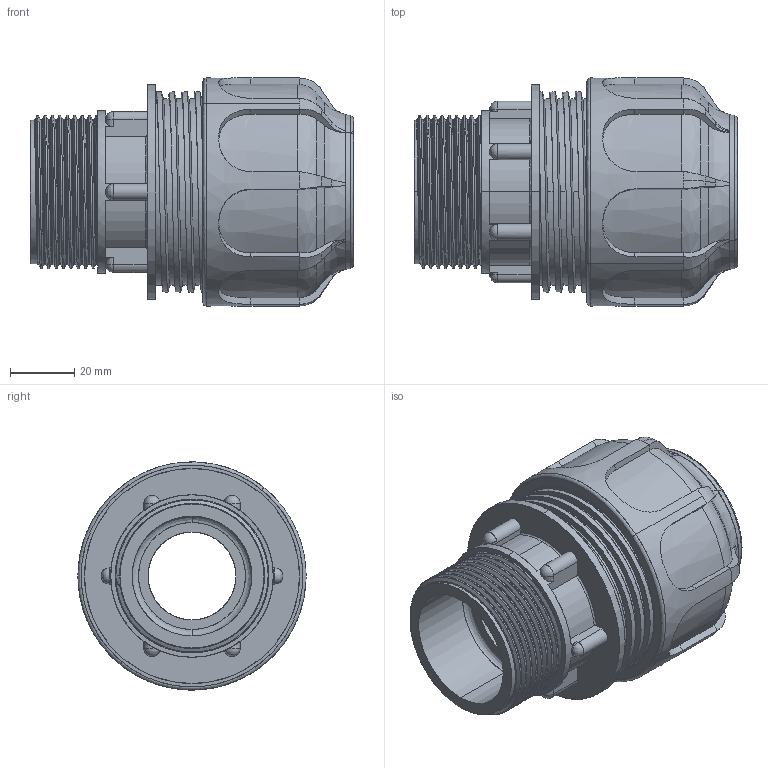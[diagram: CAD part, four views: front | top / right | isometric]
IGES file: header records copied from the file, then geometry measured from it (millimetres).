
Start section: SolidWorks IGES file using analytic representation for surfaces
Global section: file name: P:\DisegniUfficioTecnico\Articoli\ARTICOLI_3D\DISEGNI_STEP_IGS_SITO\02004\02004_IGS\02004.1132.IGS; native system: SolidWorks 2011; preprocessor: SolidWorks 2011; author: giacomo; date: 170522.161326; units: millimetre
Bounding box: 100.68 x 71.1 x 71.1 mm (x, y, z)
Surface area: 78767.5 mm2 (no closed solid volume)
Topology: 0 solids, 0 shells, 451 faces, 8079 edges, 8060 vertices
Faces by surface type: bspline 248, revolution 203
